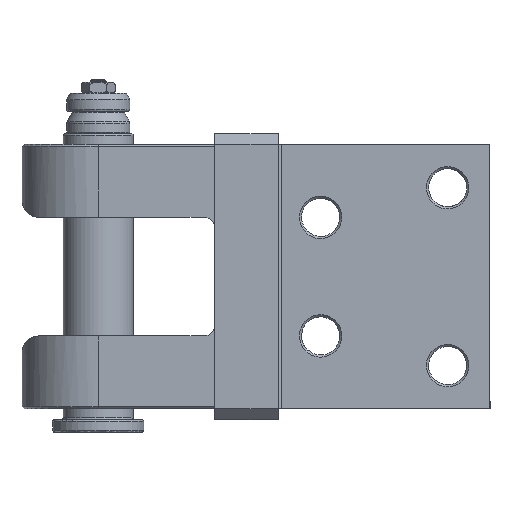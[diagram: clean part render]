
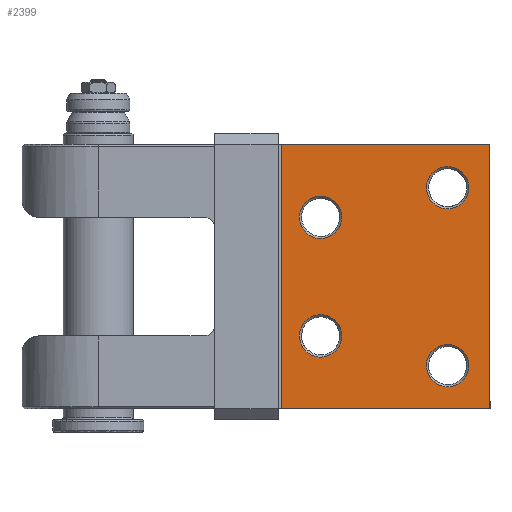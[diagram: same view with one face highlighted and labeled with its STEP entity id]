
A CAD part, left-side view. The second image highlights one B-rep face of the part: STEP entity #2399.
In plain terms, the highlighted planar face has unit normal (-1, 0, 0).
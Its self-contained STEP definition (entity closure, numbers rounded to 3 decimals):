
#342=PLANE('',#24957);
#692=FACE_BOUND('',#4166,.T.);
#693=FACE_BOUND('',#4167,.T.);
#694=FACE_BOUND('',#4168,.T.);
#695=FACE_BOUND('',#4169,.T.);
#696=FACE_BOUND('',#4170,.T.);
#2399=ADVANCED_FACE('*FAC1921',(#692,#693,#694,#695,#696),#342,.F.);
#4166=EDGE_LOOP('',(#9794,#9795,#9796,#9797));
#4167=EDGE_LOOP('',(#9798,#9799));
#4168=EDGE_LOOP('',(#9800,#9801));
#4169=EDGE_LOOP('',(#9802,#9803));
#4170=EDGE_LOOP('',(#9804,#9805));
#9794=ORIENTED_EDGE('',*,*,#19321,.F.);
#9795=ORIENTED_EDGE('',*,*,#19506,.T.);
#9796=ORIENTED_EDGE('',*,*,#19507,.T.);
#9797=ORIENTED_EDGE('',*,*,#19508,.T.);
#9798=ORIENTED_EDGE('',*,*,#19318,.F.);
#9799=ORIENTED_EDGE('',*,*,#19317,.F.);
#9800=ORIENTED_EDGE('',*,*,#19315,.F.);
#9801=ORIENTED_EDGE('',*,*,#19316,.F.);
#9802=ORIENTED_EDGE('',*,*,#19314,.F.);
#9803=ORIENTED_EDGE('',*,*,#19313,.F.);
#9804=ORIENTED_EDGE('',*,*,#19312,.F.);
#9805=ORIENTED_EDGE('',*,*,#19311,.F.);
#15351=VERTEX_POINT('',#42567);
#15352=VERTEX_POINT('',#42568);
#15353=VERTEX_POINT('',#42590);
#15354=VERTEX_POINT('',#42591);
#15355=VERTEX_POINT('',#42613);
#15356=VERTEX_POINT('',#42614);
#15357=VERTEX_POINT('',#42636);
#15358=VERTEX_POINT('',#42637);
#15361=VERTEX_POINT('',#42659);
#15362=VERTEX_POINT('',#42664);
#15521=VERTEX_POINT('',#44138);
#15522=VERTEX_POINT('',#44143);
#19311=EDGE_CURVE('',#15351,#15352,#23122,.T.);
#19312=EDGE_CURVE('',#15352,#15351,#23123,.T.);
#19313=EDGE_CURVE('',#15353,#15354,#23124,.T.);
#19314=EDGE_CURVE('',#15354,#15353,#23125,.T.);
#19315=EDGE_CURVE('',#15355,#15356,#23126,.T.);
#19316=EDGE_CURVE('',#15356,#15355,#23127,.T.);
#19317=EDGE_CURVE('',#15357,#15358,#23128,.T.);
#19318=EDGE_CURVE('',#15358,#15357,#23129,.T.);
#19321=EDGE_CURVE('',#15361,#15362,#23132,.T.);
#19506=EDGE_CURVE('',#15361,#15521,#23248,.T.);
#19507=EDGE_CURVE('',#15521,#15522,#23249,.T.);
#19508=EDGE_CURVE('',#15522,#15362,#23250,.T.);
#23122=B_SPLINE_CURVE_WITH_KNOTS('',3,(#42557,#42558,#42559,#42560,#42561,
#42562,#42563,#42564,#42565,#42566),.UNSPECIFIED.,.F.,.F.,(4,2,2,2,4),(0.,
0.25,0.5,0.75,1.),.UNSPECIFIED.);
#23123=B_SPLINE_CURVE_WITH_KNOTS('',3,(#42569,#42570,#42571,#42572,#42573,
#42574,#42575,#42576,#42577,#42578),.UNSPECIFIED.,.F.,.F.,(4,2,2,2,4),(0.,
0.25,0.5,0.75,1.),.UNSPECIFIED.);
#23124=B_SPLINE_CURVE_WITH_KNOTS('',3,(#42580,#42581,#42582,#42583,#42584,
#42585,#42586,#42587,#42588,#42589),.UNSPECIFIED.,.F.,.F.,(4,2,2,2,4),(0.,
0.25,0.5,0.75,1.),.UNSPECIFIED.);
#23125=B_SPLINE_CURVE_WITH_KNOTS('',3,(#42592,#42593,#42594,#42595,#42596,
#42597,#42598,#42599,#42600,#42601),.UNSPECIFIED.,.F.,.F.,(4,2,2,2,4),(0.,
0.25,0.5,0.75,1.),.UNSPECIFIED.);
#23126=B_SPLINE_CURVE_WITH_KNOTS('',3,(#42603,#42604,#42605,#42606,#42607,
#42608,#42609,#42610,#42611,#42612),.UNSPECIFIED.,.F.,.F.,(4,2,2,2,4),(0.,
0.25,0.5,0.75,1.),.UNSPECIFIED.);
#23127=B_SPLINE_CURVE_WITH_KNOTS('',3,(#42615,#42616,#42617,#42618,#42619,
#42620,#42621,#42622,#42623,#42624),.UNSPECIFIED.,.F.,.F.,(4,2,2,2,4),(0.,
0.25,0.5,0.75,1.),.UNSPECIFIED.);
#23128=B_SPLINE_CURVE_WITH_KNOTS('',3,(#42626,#42627,#42628,#42629,#42630,
#42631,#42632,#42633,#42634,#42635),.UNSPECIFIED.,.F.,.F.,(4,2,2,2,4),(0.,
0.25,0.5,0.75,1.),.UNSPECIFIED.);
#23129=B_SPLINE_CURVE_WITH_KNOTS('',3,(#42638,#42639,#42640,#42641,#42642,
#42643,#42644,#42645,#42646,#42647),.UNSPECIFIED.,.F.,.F.,(4,2,2,2,4),(0.,
0.25,0.5,0.75,1.),.UNSPECIFIED.);
#23132=B_SPLINE_CURVE_WITH_KNOTS('',3,(#42660,#42661,#42662,#42663),
 .UNSPECIFIED.,.F.,.F.,(4,4),(0.,1.),.UNSPECIFIED.);
#23248=B_SPLINE_CURVE_WITH_KNOTS('',3,(#44134,#44135,#44136,#44137),
 .UNSPECIFIED.,.F.,.F.,(4,4),(0.,1.),.UNSPECIFIED.);
#23249=B_SPLINE_CURVE_WITH_KNOTS('',3,(#44139,#44140,#44141,#44142),
 .UNSPECIFIED.,.F.,.F.,(4,4),(0.,1.),.UNSPECIFIED.);
#23250=B_SPLINE_CURVE_WITH_KNOTS('',3,(#44144,#44145,#44146,#44147),
 .UNSPECIFIED.,.F.,.F.,(4,4),(0.,1.),.UNSPECIFIED.);
#24957=AXIS2_PLACEMENT_3D('',#44148,#25765,#25766);
#25765=DIRECTION('',(1.,0.,0.));
#25766=DIRECTION('',(0.,0.,-1.));
#42557=CARTESIAN_POINT('',(-25.,20.,-114.5));
#42558=CARTESIAN_POINT('',(-25.,17.382,-114.5));
#42559=CARTESIAN_POINT('',(-25.,14.78,-113.422));
#42560=CARTESIAN_POINT('',(-25.,11.078,-109.72));
#42561=CARTESIAN_POINT('',(-25.,10.,-107.118));
#42562=CARTESIAN_POINT('',(-25.,10.,-101.882));
#42563=CARTESIAN_POINT('',(-25.,11.078,-99.28));
#42564=CARTESIAN_POINT('',(-25.,14.78,-95.578));
#42565=CARTESIAN_POINT('',(-25.,17.382,-94.5));
#42566=CARTESIAN_POINT('',(-25.,20.,-94.5));
#42567=CARTESIAN_POINT('',(-25.,20.,-114.5));
#42568=CARTESIAN_POINT('',(-25.,20.,-94.5));
#42569=CARTESIAN_POINT('',(-25.,20.,-94.5));
#42570=CARTESIAN_POINT('',(-25.,22.618,-94.5));
#42571=CARTESIAN_POINT('',(-25.,25.22,-95.578));
#42572=CARTESIAN_POINT('',(-25.,28.922,-99.28));
#42573=CARTESIAN_POINT('',(-25.,30.,-101.882));
#42574=CARTESIAN_POINT('',(-25.,30.,-107.118));
#42575=CARTESIAN_POINT('',(-25.,28.922,-109.72));
#42576=CARTESIAN_POINT('',(-25.,25.22,-113.422));
#42577=CARTESIAN_POINT('',(-25.,22.618,-114.5));
#42578=CARTESIAN_POINT('',(-25.,20.,-114.5));
#42580=CARTESIAN_POINT('',(-25.,80.,-100.5));
#42581=CARTESIAN_POINT('',(-25.,77.382,-100.5));
#42582=CARTESIAN_POINT('',(-25.,74.78,-99.422));
#42583=CARTESIAN_POINT('',(-25.,71.078,-95.72));
#42584=CARTESIAN_POINT('',(-25.,70.,-93.118));
#42585=CARTESIAN_POINT('',(-25.,70.,-87.882));
#42586=CARTESIAN_POINT('',(-25.,71.078,-85.28));
#42587=CARTESIAN_POINT('',(-25.,74.78,-81.578));
#42588=CARTESIAN_POINT('',(-25.,77.382,-80.5));
#42589=CARTESIAN_POINT('',(-25.,80.,-80.5));
#42590=CARTESIAN_POINT('',(-25.,80.,-100.5));
#42591=CARTESIAN_POINT('',(-25.,80.,-80.5));
#42592=CARTESIAN_POINT('',(-25.,80.,-80.5));
#42593=CARTESIAN_POINT('',(-25.,82.618,-80.5));
#42594=CARTESIAN_POINT('',(-25.,85.22,-81.578));
#42595=CARTESIAN_POINT('',(-25.,88.922,-85.28));
#42596=CARTESIAN_POINT('',(-25.,90.,-87.882));
#42597=CARTESIAN_POINT('',(-25.,90.,-93.118));
#42598=CARTESIAN_POINT('',(-25.,88.922,-95.72));
#42599=CARTESIAN_POINT('',(-25.,85.22,-99.422));
#42600=CARTESIAN_POINT('',(-25.,82.618,-100.5));
#42601=CARTESIAN_POINT('',(-25.,80.,-100.5));
#42603=CARTESIAN_POINT('',(-25.,90.,-34.5));
#42604=CARTESIAN_POINT('',(-25.,90.,-37.118));
#42605=CARTESIAN_POINT('',(-25.,88.922,-39.72));
#42606=CARTESIAN_POINT('',(-25.,85.22,-43.422));
#42607=CARTESIAN_POINT('',(-25.,82.618,-44.5));
#42608=CARTESIAN_POINT('',(-25.,77.382,-44.5));
#42609=CARTESIAN_POINT('',(-25.,74.78,-43.422));
#42610=CARTESIAN_POINT('',(-25.,71.078,-39.72));
#42611=CARTESIAN_POINT('',(-25.,70.,-37.118));
#42612=CARTESIAN_POINT('',(-25.,70.,-34.5));
#42613=CARTESIAN_POINT('',(-25.,90.,-34.5));
#42614=CARTESIAN_POINT('',(-25.,70.,-34.5));
#42615=CARTESIAN_POINT('',(-25.,70.,-34.5));
#42616=CARTESIAN_POINT('',(-25.,70.,-31.882));
#42617=CARTESIAN_POINT('',(-25.,71.078,-29.28));
#42618=CARTESIAN_POINT('',(-25.,74.78,-25.578));
#42619=CARTESIAN_POINT('',(-25.,77.382,-24.5));
#42620=CARTESIAN_POINT('',(-25.,82.618,-24.5));
#42621=CARTESIAN_POINT('',(-25.,85.22,-25.578));
#42622=CARTESIAN_POINT('',(-25.,88.922,-29.28));
#42623=CARTESIAN_POINT('',(-25.,90.,-31.882));
#42624=CARTESIAN_POINT('',(-25.,90.,-34.5));
#42626=CARTESIAN_POINT('',(-25.,20.,-30.5));
#42627=CARTESIAN_POINT('',(-25.,17.382,-30.5));
#42628=CARTESIAN_POINT('',(-25.,14.78,-29.422));
#42629=CARTESIAN_POINT('',(-25.,11.078,-25.72));
#42630=CARTESIAN_POINT('',(-25.,10.,-23.118));
#42631=CARTESIAN_POINT('',(-25.,10.,-17.882));
#42632=CARTESIAN_POINT('',(-25.,11.078,-15.28));
#42633=CARTESIAN_POINT('',(-25.,14.78,-11.578));
#42634=CARTESIAN_POINT('',(-25.,17.382,-10.5));
#42635=CARTESIAN_POINT('',(-25.,20.,-10.5));
#42636=CARTESIAN_POINT('',(-25.,20.,-30.5));
#42637=CARTESIAN_POINT('',(-25.,20.,-10.5));
#42638=CARTESIAN_POINT('',(-25.,20.,-10.5));
#42639=CARTESIAN_POINT('',(-25.,22.618,-10.5));
#42640=CARTESIAN_POINT('',(-25.,25.22,-11.578));
#42641=CARTESIAN_POINT('',(-25.,28.922,-15.28));
#42642=CARTESIAN_POINT('',(-25.,30.,-17.882));
#42643=CARTESIAN_POINT('',(-25.,30.,-23.118));
#42644=CARTESIAN_POINT('',(-25.,28.922,-25.72));
#42645=CARTESIAN_POINT('',(-25.,25.22,-29.422));
#42646=CARTESIAN_POINT('',(-25.,22.618,-30.5));
#42647=CARTESIAN_POINT('',(-25.,20.,-30.5));
#42659=CARTESIAN_POINT('',(-25.,98.5,-125.));
#42660=CARTESIAN_POINT('',(-25.,98.5,-125.));
#42661=CARTESIAN_POINT('',(-25.,98.5,-83.333));
#42662=CARTESIAN_POINT('',(-25.,98.5,-41.667));
#42663=CARTESIAN_POINT('',(-25.,98.5,0.));
#42664=CARTESIAN_POINT('',(-25.,98.5,0.));
#44134=CARTESIAN_POINT('',(-25.,98.5,-125.));
#44135=CARTESIAN_POINT('',(-25.,65.667,-125.));
#44136=CARTESIAN_POINT('',(-25.,32.833,-125.));
#44137=CARTESIAN_POINT('',(-25.,0.,-125.));
#44138=CARTESIAN_POINT('',(-25.,0.,-125.));
#44139=CARTESIAN_POINT('',(-25.,0.,-125.));
#44140=CARTESIAN_POINT('',(-25.,0.,-83.333));
#44141=CARTESIAN_POINT('',(-25.,0.,-41.667));
#44142=CARTESIAN_POINT('',(-25.,0.,0.));
#44143=CARTESIAN_POINT('',(-25.,0.,0.));
#44144=CARTESIAN_POINT('',(-25.,0.,0.));
#44145=CARTESIAN_POINT('',(-25.,32.833,0.));
#44146=CARTESIAN_POINT('',(-25.,65.667,0.));
#44147=CARTESIAN_POINT('',(-25.,98.5,0.));
#44148=CARTESIAN_POINT('',(-25.,0.,0.));
